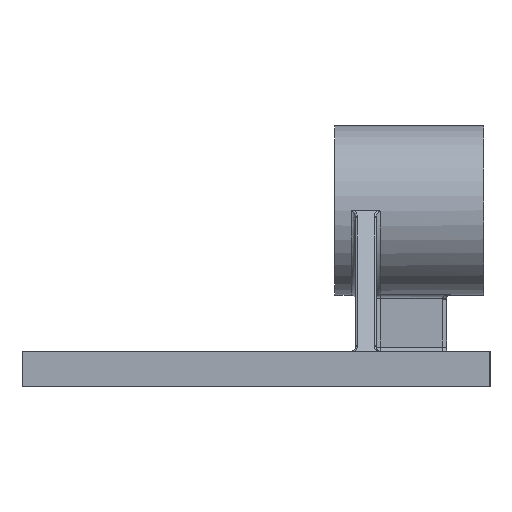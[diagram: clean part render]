
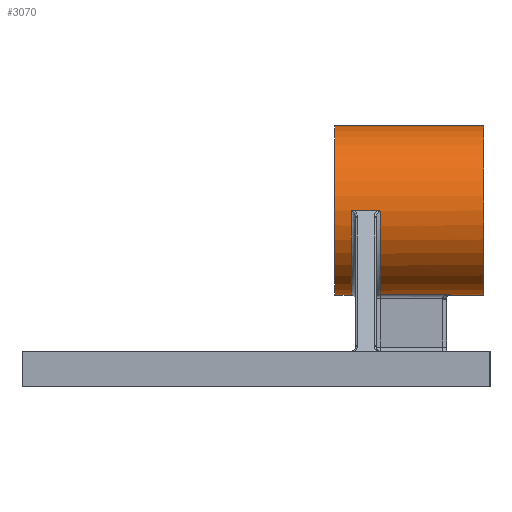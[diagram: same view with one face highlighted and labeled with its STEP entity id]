
A CAD part, left-side view. The second image highlights one B-rep face of the part: STEP entity #3070.
In plain terms, the highlighted cylindrical face has radius 41 mm (diameter 82 mm), a full revolution.
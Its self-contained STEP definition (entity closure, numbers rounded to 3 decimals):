
#312=CARTESIAN_POINT('',(-41.,-47.174,85.));
#313=VERTEX_POINT('',#312);
#343=CARTESIAN_POINT('',(-40.998,-46.,84.629));
#344=VERTEX_POINT('',#343);
#345=CARTESIAN_POINT('',(-40.998,-46.,84.629));
#346=CARTESIAN_POINT('',(-40.998,-46.002,84.63));
#347=CARTESIAN_POINT('',(-40.998,-46.003,84.631));
#348=CARTESIAN_POINT('',(-40.999,-46.165,84.747));
#349=CARTESIAN_POINT('',(-41.,-46.338,84.835));
#350=CARTESIAN_POINT('',(-41.,-46.734,84.966));
#351=CARTESIAN_POINT('',(-41.,-46.953,85.0));
#352=CARTESIAN_POINT('',(-41.,-47.174,85.0));
#353=B_SPLINE_CURVE_WITH_KNOTS('',3,(#345,#346,#347,#348,#349,#350,#351,#352),.UNSPECIFIED.,.F.,.U.,(4,2,2,4),(-0.001,0.0,0.059,0.126),.UNSPECIFIED.);
#354=EDGE_CURVE('',#313,#344,#353,.F.);
#653=CARTESIAN_POINT('',(40.998,-46.,84.629));
#654=VERTEX_POINT('',#653);
#655=CARTESIAN_POINT('',(0.,-46.0,85.0));
#656=DIRECTION('',(0.0,-1.0,0.0));
#657=DIRECTION('',(0.0,0.0,-1.0));
#658=AXIS2_PLACEMENT_3D('',#655,#656,#657);
#659=CIRCLE('',#658,41.);
#660=EDGE_CURVE('',#344,#654,#659,.T.);
#947=CARTESIAN_POINT('',(41.,-58.826,85.));
#948=VERTEX_POINT('',#947);
#949=CARTESIAN_POINT('',(40.998,-60.,84.629));
#950=VERTEX_POINT('',#949);
#951=CARTESIAN_POINT('',(40.998,-60.,84.629));
#952=CARTESIAN_POINT('',(40.998,-59.998,84.63));
#953=CARTESIAN_POINT('',(40.998,-59.997,84.631));
#954=CARTESIAN_POINT('',(40.999,-59.835,84.747));
#955=CARTESIAN_POINT('',(41.,-59.662,84.835));
#956=CARTESIAN_POINT('',(41.,-59.266,84.966));
#957=CARTESIAN_POINT('',(41.,-59.047,85.0));
#958=CARTESIAN_POINT('',(41.,-58.826,85.0));
#959=B_SPLINE_CURVE_WITH_KNOTS('',3,(#951,#952,#953,#954,#955,#956,#957,#958),.UNSPECIFIED.,.F.,.U.,(4,2,2,4),(-0.001,0.0,0.059,0.126),.UNSPECIFIED.);
#960=EDGE_CURVE('',#948,#950,#959,.F.);
#1318=CARTESIAN_POINT('',(41.,-47.174,85.0));
#1319=VERTEX_POINT('',#1318);
#1320=CARTESIAN_POINT('',(41.,-47.174,85.));
#1321=CARTESIAN_POINT('',(41.,-47.122,85.));
#1322=CARTESIAN_POINT('',(41.,-47.07,84.998));
#1323=CARTESIAN_POINT('',(41.,-46.829,84.981));
#1324=CARTESIAN_POINT('',(41.,-46.642,84.941));
#1325=CARTESIAN_POINT('',(41.,-46.3,84.815));
#1326=CARTESIAN_POINT('',(40.999,-46.147,84.734));
#1327=CARTESIAN_POINT('',(40.998,-46.003,84.631));
#1328=CARTESIAN_POINT('',(40.998,-46.002,84.63));
#1329=CARTESIAN_POINT('',(40.998,-46.,84.629));
#1330=B_SPLINE_CURVE_WITH_KNOTS('',3,(#1320,#1321,#1322,#1323,#1324,#1325,#1326,#1327,#1328,#1329),.UNSPECIFIED.,.F.,.U.,(4,2,2,2,4),(0.0,0.016,0.073,0.125,0.125),.UNSPECIFIED.);
#1331=EDGE_CURVE('',#654,#1319,#1330,.F.);
#1470=CARTESIAN_POINT('',(41.,-58.826,85.0));
#1471=DIRECTION('',(0.0,1.0,0.0));
#1472=VECTOR('',#1471,11.653);
#1473=LINE('',#1470,#1472);
#1474=EDGE_CURVE('',#948,#1319,#1473,.T.);
#1702=CARTESIAN_POINT('',(-40.998,-60.,84.629));
#1703=VERTEX_POINT('',#1702);
#1704=CARTESIAN_POINT('',(-41.,-58.826,85.));
#1705=VERTEX_POINT('',#1704);
#1706=CARTESIAN_POINT('',(-41.,-58.826,85.));
#1707=CARTESIAN_POINT('',(-41.,-58.878,85.));
#1708=CARTESIAN_POINT('',(-41.,-58.93,84.998));
#1709=CARTESIAN_POINT('',(-41.,-59.171,84.981));
#1710=CARTESIAN_POINT('',(-41.,-59.358,84.941));
#1711=CARTESIAN_POINT('',(-41.,-59.7,84.815));
#1712=CARTESIAN_POINT('',(-40.999,-59.853,84.734));
#1713=CARTESIAN_POINT('',(-40.998,-59.997,84.631));
#1714=CARTESIAN_POINT('',(-40.998,-59.998,84.63));
#1715=CARTESIAN_POINT('',(-40.998,-60.,84.629));
#1716=B_SPLINE_CURVE_WITH_KNOTS('',3,(#1706,#1707,#1708,#1709,#1710,#1711,#1712,#1713,#1714,#1715),.UNSPECIFIED.,.F.,.U.,(4,2,2,2,4),(0.0,0.016,0.073,0.125,0.125),.UNSPECIFIED.);
#1717=EDGE_CURVE('',#1703,#1705,#1716,.F.);
#1782=CARTESIAN_POINT('',(-6.674,-60.0,44.547));
#1783=VERTEX_POINT('',#1782);
#1791=CARTESIAN_POINT('',(0.,-60.0,85.0));
#1792=DIRECTION('',(0.,1.,0.));
#1793=DIRECTION('',(-0.749,0.,-0.663));
#1794=AXIS2_PLACEMENT_3D('',#1791,#1792,#1793);
#1795=CIRCLE('',#1794,41.0);
#1796=EDGE_CURVE('',#1783,#1703,#1795,.T.);
#1977=CARTESIAN_POINT('',(6.674,-94.,44.547));
#1978=VERTEX_POINT('',#1977);
#2192=CARTESIAN_POINT('',(-6.674,-94.,44.547));
#2193=VERTEX_POINT('',#2192);
#2194=CARTESIAN_POINT('',(0.,-94.,85.0));
#2195=DIRECTION('',(0.0,1.0,0.0));
#2196=DIRECTION('',(0.0,0.0,-1.0));
#2197=AXIS2_PLACEMENT_3D('',#2194,#2195,#2196);
#2198=CIRCLE('',#2197,41.);
#2199=EDGE_CURVE('',#1978,#2193,#2198,.T.);
#2243=CARTESIAN_POINT('',(6.674,-60.0,44.547));
#2244=VERTEX_POINT('',#2243);
#2252=CARTESIAN_POINT('',(6.674,-60.0,44.547));
#2253=DIRECTION('',(0.0,-1.0,0.0));
#2254=VECTOR('',#2253,34.);
#2255=LINE('',#2252,#2254);
#2256=EDGE_CURVE('',#2244,#1978,#2255,.T.);
#2912=CARTESIAN_POINT('',(-6.674,-94.,44.547));
#2913=DIRECTION('',(0.0,1.0,0.0));
#2914=VECTOR('',#2913,34.);
#2915=LINE('',#2912,#2914);
#2916=EDGE_CURVE('',#2193,#1783,#2915,.T.);
#2969=CARTESIAN_POINT('',(0.,-60.0,85.0));
#2970=DIRECTION('',(0.,1.,0.));
#2971=DIRECTION('',(0.749,0.,-0.663));
#2972=AXIS2_PLACEMENT_3D('',#2969,#2970,#2971);
#2973=CIRCLE('',#2972,41.0);
#2974=EDGE_CURVE('',#950,#2244,#2973,.T.);
#3024=CARTESIAN_POINT('',(0.,-110.0,85.0));
#3025=DIRECTION('',(0.,1.0,0.0));
#3026=DIRECTION('',(-1.0,0.0,0.0));
#3027=AXIS2_PLACEMENT_3D('',#3024,#3025,#3026);
#3028=CYLINDRICAL_SURFACE('',#3027,41.);
#3029=CARTESIAN_POINT('',(41.,-110.0,85.0));
#3030=VERTEX_POINT('',#3029);
#3031=CARTESIAN_POINT('',(0.,-110.0,85.0));
#3032=DIRECTION('',(0.0,1.0,0.0));
#3033=DIRECTION('',(-1.0,0.0,0.0));
#3034=AXIS2_PLACEMENT_3D('',#3031,#3032,#3033);
#3035=CIRCLE('',#3034,41.);
#3036=EDGE_CURVE('',#3030,#3030,#3035,.T.);
#3037=ORIENTED_EDGE('',*,*,#3036,.T.);
#3038=EDGE_LOOP('',(#3037));
#3039=FACE_OUTER_BOUND('',#3038,.T.);
#3040=CARTESIAN_POINT('',(-41.,-47.174,85.0));
#3041=DIRECTION('',(0.0,-1.0,0.0));
#3042=VECTOR('',#3041,11.653);
#3043=LINE('',#3040,#3042);
#3044=EDGE_CURVE('',#313,#1705,#3043,.T.);
#3045=ORIENTED_EDGE('',*,*,#3044,.T.);
#3046=ORIENTED_EDGE('',*,*,#1717,.F.);
#3047=ORIENTED_EDGE('',*,*,#1796,.F.);
#3048=ORIENTED_EDGE('',*,*,#2916,.F.);
#3049=ORIENTED_EDGE('',*,*,#2199,.F.);
#3050=ORIENTED_EDGE('',*,*,#2256,.F.);
#3051=ORIENTED_EDGE('',*,*,#2974,.F.);
#3052=ORIENTED_EDGE('',*,*,#960,.F.);
#3053=ORIENTED_EDGE('',*,*,#1474,.T.);
#3054=ORIENTED_EDGE('',*,*,#1331,.F.);
#3055=ORIENTED_EDGE('',*,*,#660,.F.);
#3056=ORIENTED_EDGE('',*,*,#354,.F.);
#3057=EDGE_LOOP('',(#3045,#3046,#3047,#3048,#3049,#3050,#3051,#3052,#3053,#3054,#3055,#3056));
#3058=FACE_BOUND('',#3057,.T.);
#3059=CARTESIAN_POINT('',(41.,-38.,85.0));
#3060=VERTEX_POINT('',#3059);
#3061=CARTESIAN_POINT('',(0.,-38.0,85.0));
#3062=DIRECTION('',(0.0,-1.0,0.0));
#3063=DIRECTION('',(-1.0,0.0,0.0));
#3064=AXIS2_PLACEMENT_3D('',#3061,#3062,#3063);
#3065=CIRCLE('',#3064,41.);
#3066=EDGE_CURVE('',#3060,#3060,#3065,.T.);
#3067=ORIENTED_EDGE('',*,*,#3066,.T.);
#3068=EDGE_LOOP('',(#3067));
#3069=FACE_BOUND('',#3068,.T.);
#3070=ADVANCED_FACE('',(#3039,#3058,#3069),#3028,.T.);
